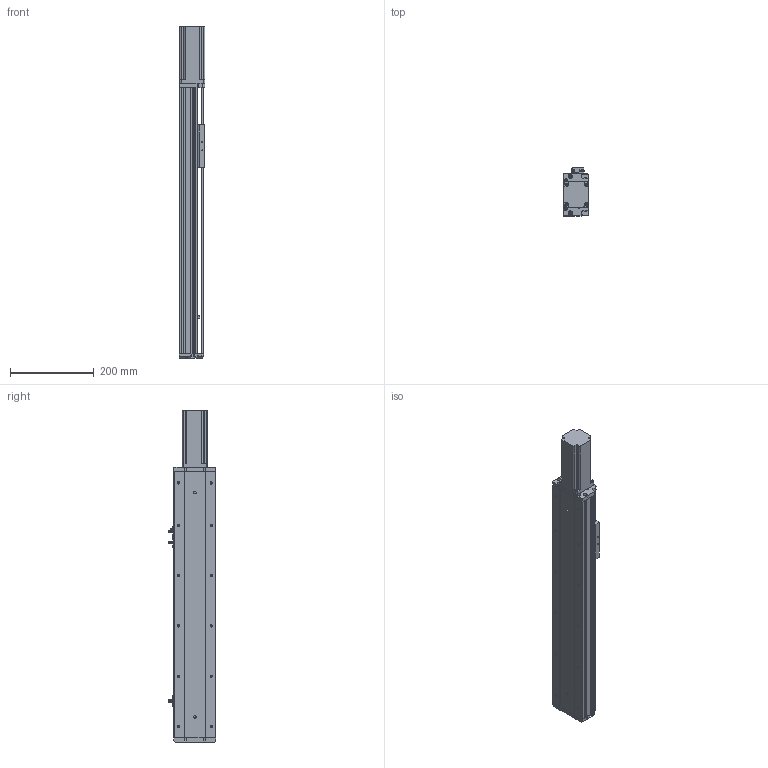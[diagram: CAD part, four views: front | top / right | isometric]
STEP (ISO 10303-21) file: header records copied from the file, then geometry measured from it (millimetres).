
FILE_DESCRIPTION (( 'STEP AP214' ), '1' );
FILE_NAME ('KSD100S-S400-MN-CM.STEP', '2019-08-30T06:58:23', ( '微软用户' ), ( '微软中国' ), 'SwSTEP 2.0', 'SolidWorks 2014', '' );
FILE_SCHEMA (( 'AUTOMOTIVE_DESIGN' ));
Length unit declared in the file: millimetre
Products named in the file (9): 100宽防尘板丝杆400行程不带电机座; 100宽马达安装板不带电机座; 100宽滚珠螺姆安装板半封闭; 100遵傷啣; 100宽底板半封闭400行程丝杆不带电机座; KSD100S-S400-MN-CM; 台达ECMA－C20604AS伺服电机; 覜茼え100遵圉猾敕; U倰嫖萇EEㄜSX672
Assembly tree (10 placements, depth 2):
  KSD100S-S400-MN-CM
    100宽底板半封闭400行程丝杆不带电机座
    100遵傷啣
    100宽滚珠螺姆安装板半封闭
    100宽马达安装板不带电机座
    100宽防尘板丝杆400行程不带电机座
    U倰嫖萇EEㄜSX672  x3
    覜茼え100遵圉猾敕
    台达ECMA－C20604AS伺服电机
Bounding box: 62 x 113.7 x 792 mm (x, y, z)
Volume: 1784224.5 mm3; surface area: 523597.1 mm2
Topology: 11 solids, 11 shells, 1042 faces, 2940 edges, 1867 vertices
Faces by surface type: cylinder 483, plane 452, cone 107
Entity records: 35294 total; most frequent: CARTESIAN_POINT 6826, DIRECTION 4707, ORIENTED_EDGE 4572, EDGE_CURVE 2286, AXIS2_PLACEMENT_3D 1688, VERTEX_POINT 1491, LINE 1331, VECTOR 1331
